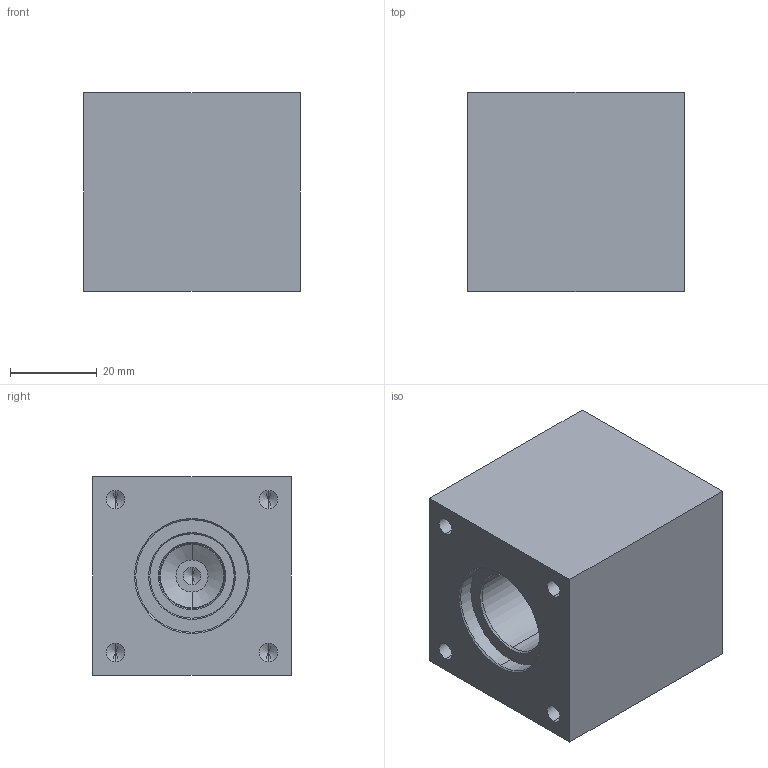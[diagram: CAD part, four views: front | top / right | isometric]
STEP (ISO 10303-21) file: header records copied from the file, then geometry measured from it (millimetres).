
FILE_DESCRIPTION (( 'STEP AP214' ), '1' );
FILE_NAME ('2.13-1014_.2206.STEP', '2022-02-09T12:37:51', ( '' ), ( '' ), 'SwSTEP 2.0', 'SolidWorks 2020', '' );
FILE_SCHEMA (( 'AUTOMOTIVE_DESIGN' ));
Length unit declared in the file: millimetre
Products named in the file (1): 2.13-1014_.2206
Bounding box: 50 x 46 x 46 mm (x, y, z)
Volume: 94375.4 mm3; surface area: 16398.3 mm2
Topology: 1 solids, 1 shells, 46 faces, 102 edges, 57 vertices
Faces by surface type: cone 18, cylinder 18, plane 10
Entity records: 1384 total; most frequent: DIRECTION 230, CARTESIAN_POINT 196, ORIENTED_EDGE 184, EDGE_CURVE 92, AXIS2_PLACEMENT_3D 91, VERTEX_POINT 57, EDGE_LOOP 55, LINE 48
